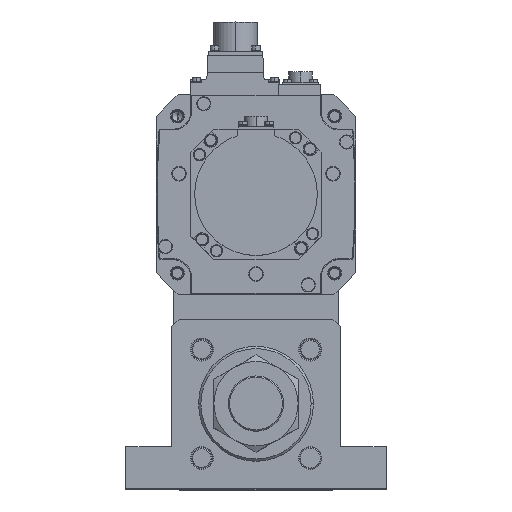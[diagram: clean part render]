
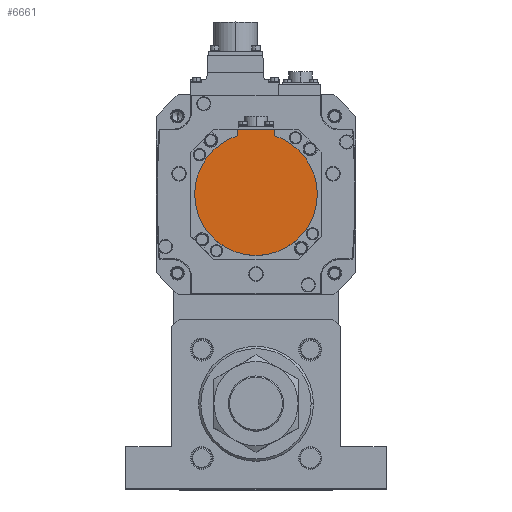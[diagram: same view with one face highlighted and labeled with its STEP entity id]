
A CAD part, top view. The second image highlights one B-rep face of the part: STEP entity #6661.
In plain terms, the highlighted planar face has unit normal (0, 0, 1) as drawn and (0, 0, -1) by its records, which use the part's own axes.
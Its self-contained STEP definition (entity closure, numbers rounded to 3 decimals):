
#931 = EDGE_CURVE ( 'NONE', #14035, #12946, #29373, .T. ) ;
#1102 = VERTEX_POINT ( 'NONE', #23378 ) ;
#1579 = DIRECTION ( 'NONE',  ( 1., 0., 0. ) ) ;
#3816 = PLANE ( 'NONE',  #35977 ) ;
#4478 = CARTESIAN_POINT ( 'NONE',  ( 12., -38.158, -167. ) ) ;
#4678 = ORIENTED_EDGE ( 'NONE', *, *, #27819, .F. ) ;
#5325 = CARTESIAN_POINT ( 'NONE',  ( -12., -42.5, -167. ) ) ;
#6191 = EDGE_CURVE ( 'NONE', #15748, #12946, #11584, .T. ) ;
#6217 = ORIENTED_EDGE ( 'NONE', *, *, #14288, .F. ) ;
#6660 = EDGE_CURVE ( 'NONE', #1102, #10126, #24945, .T. ) ;
#6661 = ADVANCED_FACE ( 'NONE', ( #29012 ), #3816, .F. ) ;
#7697 = CARTESIAN_POINT ( 'NONE',  ( 0., -42.5, -167. ) ) ;
#8569 = EDGE_LOOP ( 'NONE', ( #30043, #31094, #4678, #6217, #28678, #35866 ) ) ;
#8666 = CIRCLE ( 'NONE', #9087, 40. ) ;
#9087 = AXIS2_PLACEMENT_3D ( 'NONE', #31798, #14636, #34706 ) ;
#9274 = CARTESIAN_POINT ( 'NONE',  ( 12., -1.249, -167. ) ) ;
#10126 = VERTEX_POINT ( 'NONE', #4478 ) ;
#11463 = VECTOR ( 'NONE', #11895, 1000. ) ;
#11584 = CIRCLE ( 'NONE', #25122, 40. ) ;
#11601 = CARTESIAN_POINT ( 'NONE',  ( 0., 0., -167. ) ) ;
#11895 = DIRECTION ( 'NONE',  ( 0., 1., 0. ) ) ;
#12041 = CARTESIAN_POINT ( 'NONE',  ( 40., 0., -167. ) ) ;
#12946 = VERTEX_POINT ( 'NONE', #27992 ) ;
#14009 = CARTESIAN_POINT ( 'NONE',  ( -40., 0., -167. ) ) ;
#14035 = VERTEX_POINT ( 'NONE', #5325 ) ;
#14288 = EDGE_CURVE ( 'NONE', #10126, #22357, #8666, .T. ) ;
#14636 = DIRECTION ( 'NONE',  ( 0., 0., 1. ) ) ;
#14885 = DIRECTION ( 'NONE',  ( 1., 0., 0. ) ) ;
#15085 = VECTOR ( 'NONE', #29645, 1000. ) ;
#15748 = VERTEX_POINT ( 'NONE', #14009 ) ;
#17106 = CIRCLE ( 'NONE', #25082, 40. ) ;
#17343 = DIRECTION ( 'NONE',  ( 1., 0., 0. ) ) ;
#17982 = VECTOR ( 'NONE', #26292, 1000. ) ;
#21903 = DIRECTION ( 'NONE',  ( 0., 0., 1. ) ) ;
#22357 = VERTEX_POINT ( 'NONE', #12041 ) ;
#23378 = CARTESIAN_POINT ( 'NONE',  ( 12., -42.5, -167. ) ) ;
#24945 = LINE ( 'NONE', #9274, #15085 ) ;
#25082 = AXIS2_PLACEMENT_3D ( 'NONE', #11601, #31988, #17343 ) ;
#25122 = AXIS2_PLACEMENT_3D ( 'NONE', #36233, #21903, #1579 ) ;
#26006 = CARTESIAN_POINT ( 'NONE',  ( -12., -40.329, -167. ) ) ;
#26292 = DIRECTION ( 'NONE',  ( -1., 0., 0. ) ) ;
#27819 = EDGE_CURVE ( 'NONE', #22357, #15748, #17106, .T. ) ;
#27992 = CARTESIAN_POINT ( 'NONE',  ( -12., -38.158, -167. ) ) ;
#28253 = LINE ( 'NONE', #7697, #17982 ) ;
#28308 = EDGE_CURVE ( 'NONE', #1102, #14035, #28253, .T. ) ;
#28678 = ORIENTED_EDGE ( 'NONE', *, *, #6660, .F. ) ;
#29012 = FACE_OUTER_BOUND ( 'NONE', #8569, .T. ) ;
#29276 = CARTESIAN_POINT ( 'NONE',  ( 0., -1.249, -167. ) ) ;
#29373 = LINE ( 'NONE', #26006, #11463 ) ;
#29645 = DIRECTION ( 'NONE',  ( 0., 1., 0. ) ) ;
#30043 = ORIENTED_EDGE ( 'NONE', *, *, #931, .T. ) ;
#31094 = ORIENTED_EDGE ( 'NONE', *, *, #6191, .F. ) ;
#31798 = CARTESIAN_POINT ( 'NONE',  ( 0., 0., -167. ) ) ;
#31988 = DIRECTION ( 'NONE',  ( 0., 0., 1. ) ) ;
#32048 = DIRECTION ( 'NONE',  ( 0., 0., 1. ) ) ;
#34706 = DIRECTION ( 'NONE',  ( 1., 0., 0. ) ) ;
#35866 = ORIENTED_EDGE ( 'NONE', *, *, #28308, .T. ) ;
#35977 = AXIS2_PLACEMENT_3D ( 'NONE', #29276, #32048, #14885 ) ;
#36233 = CARTESIAN_POINT ( 'NONE',  ( 0., 0., -167. ) ) ;
